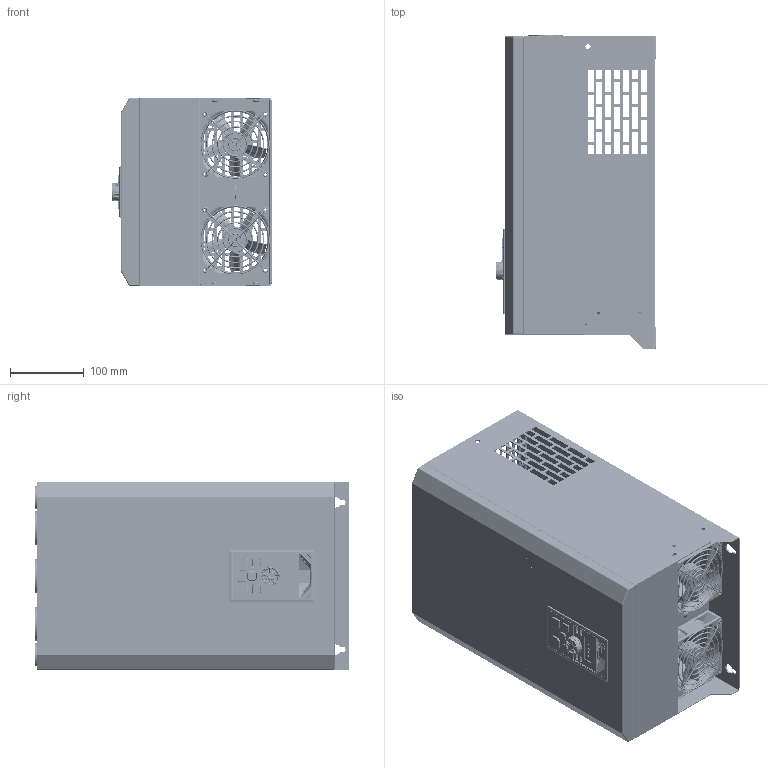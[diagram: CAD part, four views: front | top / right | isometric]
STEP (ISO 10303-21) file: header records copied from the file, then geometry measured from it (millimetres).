
FILE_DESCRIPTION(('STEP AP203'), '1');
FILE_NAME('NCI-G45-4B _ Ïðåîáðàçîâàòåëü ÷àñòîòû', '2026-02-09T12:28:59', ('admin'), (''), 'C3D Converter', 'C3D Toolkit', '');
FILE_SCHEMA(('CONFIG_CONTROL_DESIGN'));
Length unit declared in the file: millimetre
Products named in the file (57): NCI-G45-4B; GM600-30A-BJ_ASM; GM600-30A-BJ-01_ASM; GM600-30A-BJ-01-01_ASM; GM600-30A-BJ-01-01; S-M4-ZC; GM600-30A-BJ-01-02_ASM; GM600-30A-BJ-01-02; GM600-30A-BJ-01-03_ASM; GM600-30A-BJ-01-03; SO-3R5M4-17-ZC; GM600-BJ-01; GM600-30A-BJ-01-04_ASM; GM600-30A-BJ-01-04; GM600-30A-BJ-01-05_ASM; GM600-30A-BJ-01-05; GM600-30A-BJ-01-06; GM600-30A-BJ-01-07; GM600-BJ-03; GM600-30A-BJ-02_ASM; GM600-30A-BJ-02-01_ASM; GM600-30A-BJ-02-01; TPS-3-8-ZC; GM600-30A-BJ-02-02; GM600-30A-BJ-03_ASM; GM600-30A-BJ-03-01_ASM; GM600-30A-BJ-03-01; GM600-30A-BJ-03-02; GM600-30A-BJ-04_ASM; GM600-30A-BJ-04; SO-3R5M3-10-ZC; SO-3R5M3-14-ZC; S-M5-ZC; GM600-30A-BJ-05_ASM; GM600-30A-BJ-05; GM600-30A-QJ_ASM; 9225; 9225NET; 251-03; HXQ_40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
Assembly tree (103 placements, depth 5):
  NCI-G45-4B
    GM600-30A-BJ_ASM
      GM600-30A-BJ-01_ASM
        GM600-30A-BJ-01-01_ASM
          GM600-30A-BJ-01-01
          S-M4-ZC  x2
        GM600-30A-BJ-01-02_ASM
          GM600-30A-BJ-01-02
          S-M4-ZC  x4
        GM600-30A-BJ-01-03_ASM
          GM600-30A-BJ-01-03
          SO-3R5M4-17-ZC  x8
          GM600-BJ-01
        GM600-30A-BJ-01-04_ASM
          GM600-30A-BJ-01-04
          S-M4-ZC
        GM600-30A-BJ-01-05_ASM
          GM600-30A-BJ-01-05
          S-M4-ZC
        GM600-30A-BJ-01-06
        GM600-30A-BJ-01-07
        GM600-BJ-03
      GM600-30A-BJ-02_ASM
        GM600-30A-BJ-02-01_ASM
          GM600-30A-BJ-02-01
          TPS-3-8-ZC  x2
        GM600-30A-BJ-02-02
      GM600-30A-BJ-03_ASM
        GM600-30A-BJ-03-01_ASM
          GM600-30A-BJ-03-01
        GM600-30A-BJ-03-02
      GM600-30A-BJ-04_ASM
        GM600-30A-BJ-04
        SO-3R5M3-10-ZC  x5
        SO-3R5M3-14-ZC  x5
        S-M5-ZC  x3
        GM600-BJ-01
      GM600-30A-BJ-05_ASM
        GM600-30A-BJ-05
        S-M4-ZC  x12
    GM600-30A-QJ_ASM
      9225  x2
      9225NET
      251-03  x2
      HXQ_40  x3
    GM600-30A-PCB_ASM
      GM600-30A-QDB_ASM
        BHQ22-120A-9P_3
    GM600-JP_ASM
      GM600-JP-SJ_ASM
        GM600-JP-SJ-01
        GM600-JP-SJ-02
        GM600-JP-SJ-03
        GM600-JP-SJ-04
      GM600-JP-PCB_ASM
        GM600-JP-PCB
        PCB
        RJ45-GC186556
        LED50361
        DWQ
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Bounding box: 218.1 x 427.5 x 255 mm (x, y, z)
Volume: 1173930 mm3; surface area: 1604180.1 mm2
Topology: 104 solids, 105 shells, 18212 faces, 49828 edges, 32417 vertices
Faces by surface type: plane 14850, cylinder 1753, bspline 927, cone 287, torus 251, sphere 76, extrusion 68
Full cylindrical faces by diameter (mm): 0.5 x18, 0.9 x8, 1 x26, 1.5 x1, 2 x33, 2.3 x5, 2.4 x1, 2.54 x1, 3 x24, 3.3 x2, 3.5 x7, 3.8 x10, 4 x41, 4.2 x8, 4.8 x8, 5 x18, 5.38 x20, 5.39 x10, 5.4 x30, 5.5 x3, 6 x6, 6.38 x3, 6.4 x3, 6.8 x1, 7 x7, 7.11 x8, 7.2 x8, 8 x29, 9 x5, 9.2 x1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
Entity records: 397895 total; most frequent: CARTESIAN_POINT 133416, ORIENTED_EDGE 43126, DIRECTION 34840, EDGE_CURVE 21565, VECTOR 15018, LINE 14950, VERTEX_POINT 13940, AXIS2_PLACEMENT_3D 9911
